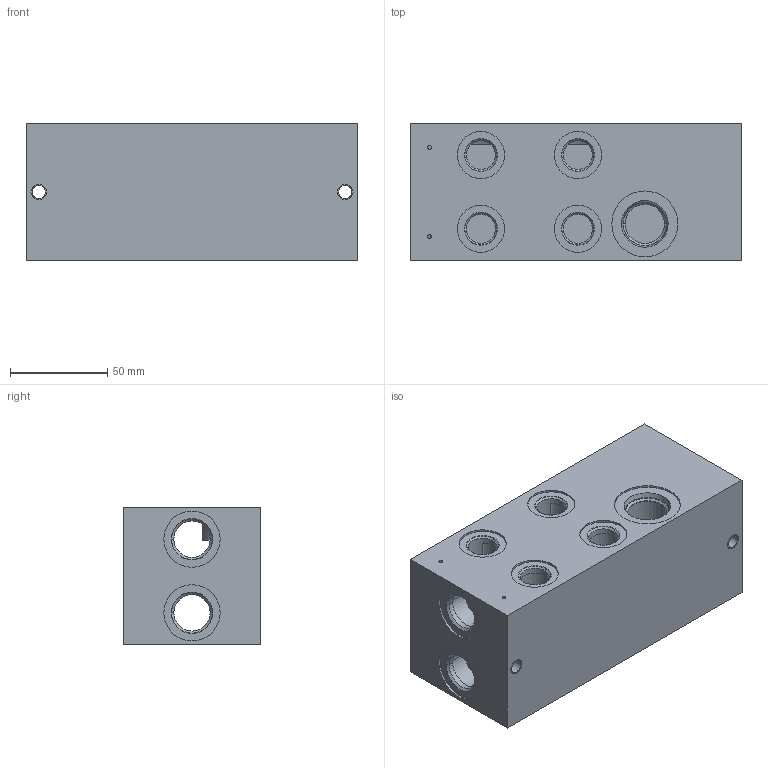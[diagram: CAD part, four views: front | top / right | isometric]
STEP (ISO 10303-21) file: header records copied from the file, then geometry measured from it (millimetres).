
FILE_DESCRIPTION((''),'2;1');
FILE_NAME('27563600','2015-11-27T',('Ahcz.brigadnik05'),(''),'PRO/ENGINEER BY PARAMETRIC TECHNOLOGY CORPORATION, 2015110','PRO/ENGINEER BY PARAMETRIC TECHNOLOGY CORPORATION, 2015110','');
FILE_SCHEMA(('AUTOMOTIVE_DESIGN { 1 0 10303 214 1 1 1 1 }'));
Length unit declared in the file: millimetre
Products named in the file (1): 27563600
Bounding box: 171 x 71 x 71 mm (x, y, z)
Volume: 295553.8 mm3; surface area: 116834.5 mm2
Topology: 1 solids, 25 shells, 222 faces, 817 edges, 757 vertices
Faces by surface type: cylinder 142, plane 50, cone 30
Entity records: 11950 total; most frequent: CARTESIAN_POINT 2150, DIRECTION 1573, ORIENTED_EDGE 1100, PRESENTATION_STYLE_ASSIGNMENT 868, STYLED_ITEM 868, CURVE_STYLE 837, EDGE_CURVE 598, AXIS2_PLACEMENT_3D 571
